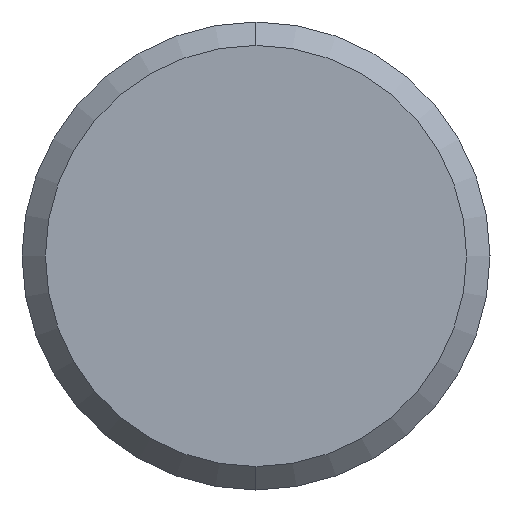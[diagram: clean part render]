
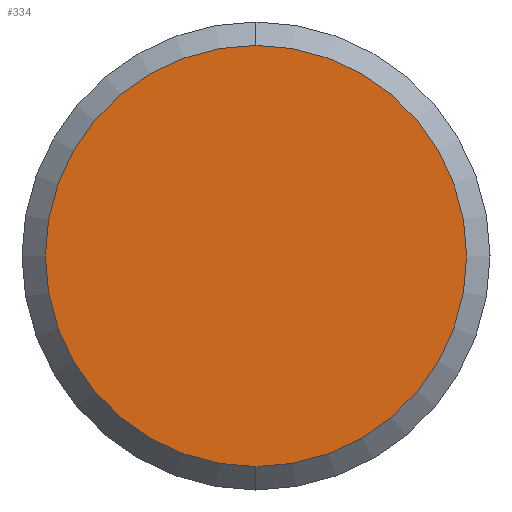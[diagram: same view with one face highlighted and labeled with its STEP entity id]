
A CAD part, left-side view. The second image highlights one B-rep face of the part: STEP entity #334.
In plain terms, the highlighted planar face has unit normal (-1, 0, 0).
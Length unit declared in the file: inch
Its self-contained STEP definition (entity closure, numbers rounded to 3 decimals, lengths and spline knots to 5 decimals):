
#21 = PLANE ( 'NONE',  #262 ) ;
#46 = ORIENTED_EDGE ( 'NONE', *, *, #351, .F. ) ;
#78 = EDGE_LOOP ( 'NONE', ( #130, #46 ) ) ;
#91 = DIRECTION ( 'NONE',  ( 0., 0., -1. ) ) ;
#96 = DIRECTION ( 'NONE',  ( -1., 0., 0. ) ) ;
#105 = DIRECTION ( 'NONE',  ( 0., 0., 1. ) ) ;
#130 = ORIENTED_EDGE ( 'NONE', *, *, #189, .F. ) ;
#167 = CARTESIAN_POINT ( 'NONE',  ( 0., 0., 0. ) ) ;
#189 = EDGE_CURVE ( 'NONE', #357, #280, #476, .T. ) ;
#204 = FACE_OUTER_BOUND ( 'NONE', #78, .T. ) ;
#221 = AXIS2_PLACEMENT_3D ( 'NONE', #167, #274, #430 ) ;
#260 = AXIS2_PLACEMENT_3D ( 'NONE', #305, #466, #91 ) ;
#262 = AXIS2_PLACEMENT_3D ( 'NONE', #475, #96, #105 ) ;
#274 = DIRECTION ( 'NONE',  ( 1., 0., 0. ) ) ;
#280 = VERTEX_POINT ( 'NONE', #355 ) ;
#305 = CARTESIAN_POINT ( 'NONE',  ( 0., 0., 0. ) ) ;
#322 = CARTESIAN_POINT ( 'NONE',  ( 0., 0., -0.35433 ) ) ;
#334 = ADVANCED_FACE ( 'NONE', ( #204 ), #21, .T. ) ;
#351 = EDGE_CURVE ( 'NONE', #280, #357, #424, .T. ) ;
#355 = CARTESIAN_POINT ( 'NONE',  ( 0., 0., 0.35433 ) ) ;
#357 = VERTEX_POINT ( 'NONE', #322 ) ;
#424 = CIRCLE ( 'NONE', #221, 0.35433 ) ;
#430 = DIRECTION ( 'NONE',  ( 0., 0., -1. ) ) ;
#466 = DIRECTION ( 'NONE',  ( 1., 0., 0. ) ) ;
#475 = CARTESIAN_POINT ( 'NONE',  ( 0., 0.35433, 0. ) ) ;
#476 = CIRCLE ( 'NONE', #260, 0.35433 ) ;
